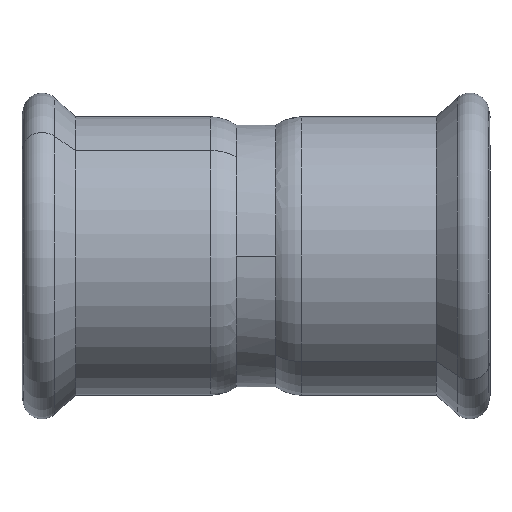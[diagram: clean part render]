
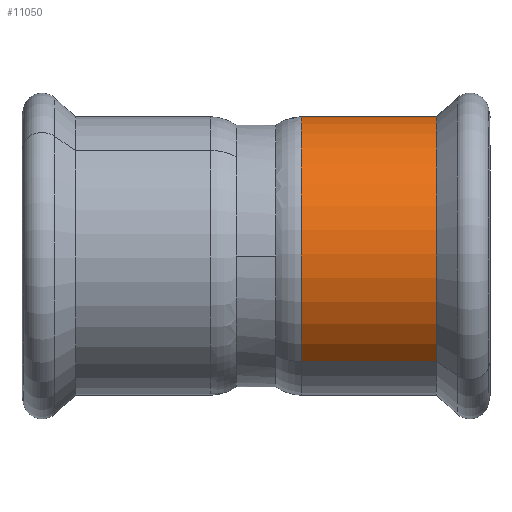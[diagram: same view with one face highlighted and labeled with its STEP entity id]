
A CAD part, front view. The second image highlights one B-rep face of the part: STEP entity #11050.
In plain terms, the highlighted cylindrical face has radius 35.45 mm (diameter 70.9 mm), a partial arc.
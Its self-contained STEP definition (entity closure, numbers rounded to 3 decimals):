
#1130=CARTESIAN_POINT('',(15.561,23.177,
26.824));
#1140=VERTEX_POINT('',#1130);
#1240=CARTESIAN_POINT('',(15.561,-23.177,
-26.824));
#1250=VERTEX_POINT('',#1240);
#1280=CARTESIAN_POINT('',(15.561,0.,0.));
#1290=DIRECTION('',(1.,0.,0.));
#1300=DIRECTION('',(0.,0.654,
0.757));
#1310=AXIS2_PLACEMENT_3D('',#1280,#1290,#1300);
#1320=CIRCLE('',#1310,35.45);
#9800=CARTESIAN_POINT('',(44.641,0.,
0.));
#9810=DIRECTION('',(1.,0.,0.));
#9820=DIRECTION('',(0.,-0.654,
-0.757));
#9830=AXIS2_PLACEMENT_3D('',#9800,#9810,#9820);
#9840=CYLINDRICAL_SURFACE('',#9830,35.45);
#9850=CARTESIAN_POINT('',(44.641,-23.177,
-26.824));
#9860=DIRECTION('',(1.,0.,0.));
#9870=VECTOR('',#9860,1.);
#9880=LINE('',#9850,#9870);
#9890=CARTESIAN_POINT('',(49.917,-23.177,
-26.824));
#9900=VERTEX_POINT('',#9890);
#9910=EDGE_CURVE('',#1250,#9900,#9880,.T.);
#9930=CARTESIAN_POINT('',(49.917,0.,
0.));
#9940=DIRECTION('',(1.,0.,0.));
#9950=DIRECTION('',(0.,0.654,
0.757));
#9960=AXIS2_PLACEMENT_3D('',#9930,#9940,#9950);
#9970=CIRCLE('',#9960,35.45);
#9980=CARTESIAN_POINT('',(49.917,23.177,
26.824));
#9990=VERTEX_POINT('',#9980);
#10020=CARTESIAN_POINT('',(44.641,23.177,
26.824));
#10030=DIRECTION('',(1.,0.,0.));
#10040=VECTOR('',#10030,1.);
#10050=LINE('',#10020,#10040);
#10060=EDGE_CURVE('',#1140,#9990,#10050,.T.);
#10970=EDGE_CURVE('',#1140,#1250,#1320,.T.);
#10980=ORIENTED_EDGE('',*,*,#10970,.T.);
#10990=ORIENTED_EDGE('',*,*,#10060,.F.);
#11000=EDGE_CURVE('',#9990,#9900,#9970,.T.);
#11010=ORIENTED_EDGE('',*,*,#11000,.F.);
#11020=ORIENTED_EDGE('',*,*,#9910,.T.);
#11030=EDGE_LOOP('',(#11020,#11010,#10990,#10980));
#11040=FACE_OUTER_BOUND('',#11030,.T.);
#11050=ADVANCED_FACE('',(#11040),#9840,.T.);
